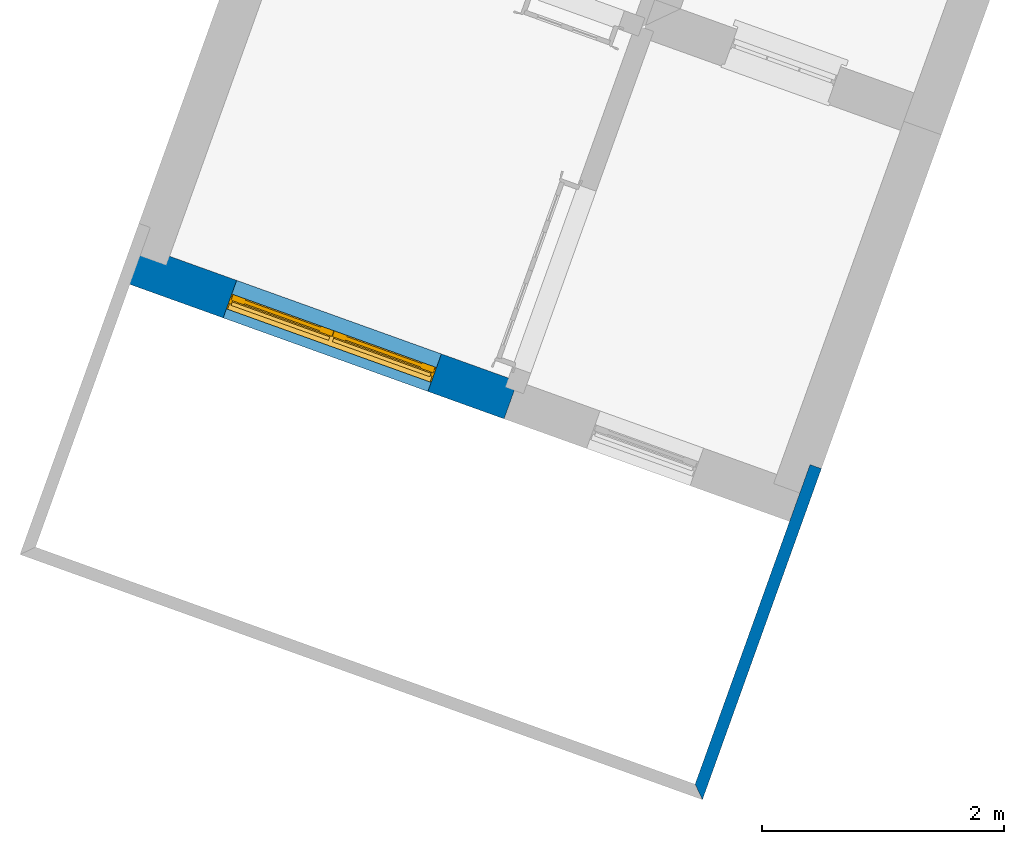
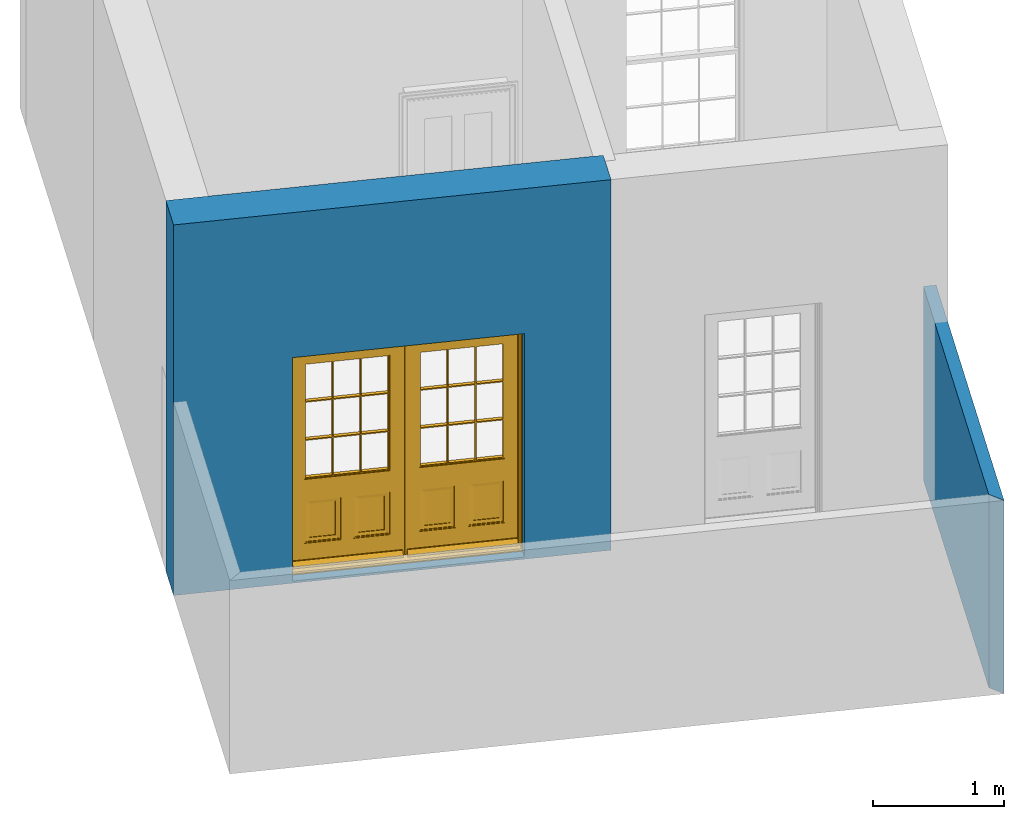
# One storey, part 2 of 8: 2 walls, 1 door, 1 opening.
"""IFC4 building model written with IfcOpenShell, lengths in metres."""

import ifcopenshell
import ifcopenshell.guid

model = None  # the IFC model being written
_history = None  # IfcOwnerHistory: only IFC2X3 demands one
_inside = {}  # id of a spatial element -> (the spatial element, [elements in it])
_under = {}  # id of a project, library or spatial element -> (it, [spatial elements below it])
_declared = {}  # id of a project -> (the project, [libraries it declares])
_typed = {}  # id of a type object -> (the type object, [elements of that type])
_made_of = {}  # id of a material, layer set ... -> (it, [elements and type objects made of it])


def new_model(schema):
    """Start an empty IFC model of exactly this schema.

    Asked for "IFC4X3", IfcOpenShell would pick the latest addendum, in which some entities
    have other attributes; the version numbers below select the first issue.
    IFC2X3 requires an IfcOwnerHistory on every rooted entity: one is made here for all.
    """
    global model, _history
    if schema == "IFC4X3":
        model = ifcopenshell.file(schema_version=(4, 3, 0, 0))
    else:
        model = ifcopenshell.file(schema=schema)
    _inside.clear()
    _under.clear()
    _declared.clear()
    _typed.clear()
    _made_of.clear()
    _history = None
    if model.schema == "IFC2X3":
        org = make("IfcOrganization", Name="unknown")
        user = make(
            "IfcPersonAndOrganization",
            ThePerson=make("IfcPerson", FamilyName="unknown"),
            TheOrganization=org,
        )
        app = make(
            "IfcApplication",
            ApplicationDeveloper=org,
            Version="unknown",
            ApplicationFullName="unknown",
            ApplicationIdentifier="unknown",
        )
        _history = make(
            "IfcOwnerHistory",
            OwningUser=user,
            OwningApplication=app,
            ChangeAction="ADDED",
            CreationDate=0,
        )
    return model


def make(cls, **values):
    """One entity of the class cls with the attributes given. An attribute that is None is left unset."""
    return model.create_entity(
        cls, **{name: value for name, value in values.items() if value is not None}
    )


def rooted(cls, **values):
    """An entity with a GlobalId (a new one), such as an element, a storey or a relation."""
    return make(cls, GlobalId=ifcopenshell.guid.new(), OwnerHistory=_history, **values)


def si_unit(unit_type, name, prefix=None):
    """IfcSIUnit, for example si_unit("LENGTHUNIT", "METRE", prefix="MILLI")."""
    return make("IfcSIUnit", UnitType=unit_type, Prefix=prefix, Name=name)


def assignment(units):
    """IfcUnitAssignment: the units of a project."""
    return None if units is None else make("IfcUnitAssignment", Units=units)


def point(xyz):
    """IfcCartesianPoint."""
    return None if xyz is None else make("IfcCartesianPoint", Coordinates=xyz)


def direction(xyz):
    """IfcDirection."""
    return None if xyz is None else make("IfcDirection", DirectionRatios=xyz)


def frame(location, z_axis=None, x_axis=None):
    """IfcAxis2Placement3D, a coordinate frame: its origin and axes. An axis left out is left unset."""
    return make(
        "IfcAxis2Placement3D",
        Location=point(location),
        Axis=direction(z_axis),
        RefDirection=direction(x_axis),
    )


def origin():
    """The frame at (0, 0, 0) with its axes left unset."""
    return frame((0.0, 0.0, 0.0))


def origin_with_axes():
    """The frame at (0, 0, 0) with the z axis (0, 0, 1) and the x axis (1, 0, 0) written out."""
    return frame((0.0, 0.0, 0.0), z_axis=(0.0, 0.0, 1.0), x_axis=(1.0, 0.0, 0.0))


def place(relative_to, where):
    """IfcLocalPlacement: puts the frame where relative to a parent placement (None: the world)."""
    return make(
        "IfcLocalPlacement", PlacementRelTo=relative_to, RelativePlacement=where
    )


def context(
    kind, dimensions, precision=None, world=None, true_north=None, identifier=None
):
    """IfcGeometricRepresentationContext, for example the 3D "Model" context."""
    return make(
        "IfcGeometricRepresentationContext",
        ContextIdentifier=identifier,
        ContextType=kind,
        CoordinateSpaceDimension=dimensions,
        Precision=precision,
        WorldCoordinateSystem=world,
        TrueNorth=true_north,
    )


def subcontext(parent, identifier, kind, view, scale=None):
    """IfcGeometricRepresentationSubContext, for example "Body" below "Model"."""
    return make(
        "IfcGeometricRepresentationSubContext",
        ContextIdentifier=identifier,
        ContextType=kind,
        ParentContext=parent,
        TargetScale=scale,
        TargetView=view,
    )


def project(units=None, contexts=None):
    """IfcProject with its units and contexts."""
    return rooted(
        "IfcProject",
        Name="project",
        RepresentationContexts=contexts,
        UnitsInContext=assignment(units),
    )


def spatial(cls, under=None, at=None, **own):
    """A site, building, storey or space (cls), placed at a placement, below another one or the project."""
    s = rooted(cls, ObjectPlacement=at, **own)
    if under is not None:
        _under.setdefault(under.id(), (under, []))[1].append(s)
    return s


def polyline(points):
    """IfcPolyline through the points."""
    return make("IfcPolyline", Points=[point(p) for p in points])


def outline(outer, holes=None, kind="AREA"):
    """IfcArbitraryClosedProfileDef: a profile drawn as a closed curve; with holes, ...WithVoids."""
    if holes is None:
        return make("IfcArbitraryClosedProfileDef", ProfileType=kind, OuterCurve=outer)
    return make(
        "IfcArbitraryProfileDefWithVoids",
        ProfileType=kind,
        OuterCurve=outer,
        InnerCurves=holes,
    )


def extrude(swept, where, along, depth):
    """IfcExtrudedAreaSolid: the profile swept, set in the frame where, extruded along a direction by depth."""
    return make(
        "IfcExtrudedAreaSolid",
        SweptArea=swept,
        Position=where,
        ExtrudedDirection=direction(along),
        Depth=depth,
    )


def faces_of(points, faces, orient=None, outer=None):
    """IfcFace entities. A face is a list of loops; a loop is a list of indices into points, from 0.

    orient and outer hold one flag for each loop. By default every Orientation is true, the
    first loop of a face is its IfcFaceOuterBound and the others are IfcFaceBound.
    """
    made = []
    for i, loops in enumerate(faces):
        bounds = []
        for j, loop in enumerate(loops):
            is_outer = j == 0 if outer is None else outer[i][j]
            bounds.append(
                make(
                    "IfcFaceOuterBound" if is_outer else "IfcFaceBound",
                    Bound=make("IfcPolyLoop", Polygon=[points[k] for k in loop]),
                    Orientation=True if orient is None else orient[i][j],
                )
            )
        made.append(make("IfcFace", Bounds=bounds))
    return made


def faceted_brep(points, faces, orient=None, outer=None, voids=None):
    """IfcFacetedBrep: a solid bounded by flat faces; with voids (closed shells), ...WithVoids."""
    shared = [point(p) for p in points]
    hull = make("IfcClosedShell", CfsFaces=faces_of(shared, faces, orient, outer))
    if voids is None:
        return make("IfcFacetedBrep", Outer=hull)
    return make(
        "IfcFacetedBrepWithVoids",
        Outer=hull,
        Voids=[
            make(cls, CfsFaces=faces_of(shared, fs, o, b)) for cls, fs, o, b in voids
        ],
    )


def shape(context_of_items, identifier, shape_type, items):
    """IfcShapeRepresentation: the items that make up one representation, for example the "Body"."""
    return make(
        "IfcShapeRepresentation",
        ContextOfItems=context_of_items,
        RepresentationIdentifier=identifier,
        RepresentationType=shape_type,
        Items=items,
    )


def source(mapping_origin, context_of_items, identifier, shape_type, items):
    """IfcRepresentationMap: a shape defined once, which mapped items show again and again."""
    return make(
        "IfcRepresentationMap",
        MappingOrigin=mapping_origin,
        MappedRepresentation=shape(context_of_items, identifier, shape_type, items),
    )


def transform(
    local_origin,
    x_axis=None,
    y_axis=None,
    z_axis=None,
    scale=None,
    scale2=None,
    scale3=None,
    uniform=True,
):
    """IfcCartesianTransformationOperator3D, or its non-uniform kind. x_axis, y_axis, z_axis: its Axis1, 2, 3."""
    if uniform:
        return make(
            "IfcCartesianTransformationOperator3D",
            Axis1=direction(x_axis),
            Axis2=direction(y_axis),
            LocalOrigin=point(local_origin),
            Scale=scale,
            Axis3=direction(z_axis),
        )
    return make(
        "IfcCartesianTransformationOperator3DnonUniform",
        Axis1=direction(x_axis),
        Axis2=direction(y_axis),
        LocalOrigin=point(local_origin),
        Scale=scale,
        Axis3=direction(z_axis),
        Scale2=scale2,
        Scale3=scale3,
    )


def mapped(mapping_source, mapping_target):
    """IfcMappedItem: shows the shape of a source again, moved by a transform."""
    return make(
        "IfcMappedItem", MappingSource=mapping_source, MappingTarget=mapping_target
    )


def material(Name=None, Category=None):
    """IfcMaterial."""
    return make("IfcMaterial", Name=Name, Category=Category)


def layer(
    of_material, thickness, ventilated=None, Name=None, Category=None, Priority=None
):
    """IfcMaterialLayer: one layer of a wall or slab, of a material (None: an air gap)."""
    return make(
        "IfcMaterialLayer",
        Material=of_material,
        LayerThickness=thickness,
        IsVentilated=ventilated,
        Name=Name,
        Category=Category,
        Priority=Priority,
    )


def layer_set(layers, Name=None):
    """IfcMaterialLayerSet."""
    return make("IfcMaterialLayerSet", MaterialLayers=layers, LayerSetName=Name)


def layer_usage(for_layer_set, set_direction, sense, offset, extent=None):
    """IfcMaterialLayerSetUsage: how a layer set lies in its element."""
    return make(
        "IfcMaterialLayerSetUsage",
        ForLayerSet=for_layer_set,
        LayerSetDirection=set_direction,
        DirectionSense=sense,
        OffsetFromReferenceLine=offset,
        ReferenceExtent=extent,
    )


def made_of(thing, what):
    """Note that an element or type object is made of a material, layer set ...; save() writes the relation."""
    if what is not None:
        _made_of.setdefault(what.id(), (what, []))[1].append(thing)
    return thing


def type_object(cls, material=None, **own):
    """A type object (cls), such as IfcWallType, which elements share."""
    return made_of(rooted(cls, **own), material)


def type_shapes(of_type, sources):
    """Give a type object the sources (RepresentationMaps) that its elements show as mapped items."""
    of_type.RepresentationMaps = sources


def element(
    cls,
    number,
    at=None,
    inside=None,
    cuts=None,
    type_object=None,
    material=None,
    context=None,
    identifier="Body",
    shape_type=None,
    held_by="IfcProductDefinitionShape",
    body=None,
    shapes=None,
    **own,
):
    """One element of the class cls, such as IfcWall. Its Tag is "e" and its number.

    at: its placement. inside: the storey or other place that contains it. cuts: it is an
    opening in that element (IfcRelVoidsElement). A single representation is given by context,
    identifier, shape_type and body (its items); several are given by shapes. held_by: the class
    of the entity that holds the representations. save() writes the other relations.
    """
    e = rooted(cls, Tag="e%d" % number, ObjectPlacement=at, **own)
    if body is not None:
        shapes = [shape(context, identifier, shape_type, body)]
    if shapes is not None:
        e.Representation = make(held_by, Representations=shapes)
    if inside is not None:
        _inside.setdefault(inside.id(), (inside, []))[1].append(e)
    if cuts is not None:
        rooted(
            "IfcRelVoidsElement", RelatingBuildingElement=cuts, RelatedOpeningElement=e
        )
    if type_object is not None:
        _typed.setdefault(type_object.id(), (type_object, []))[1].append(e)
    return made_of(e, material)


def fill(opening, filler):
    """IfcRelFillsElement: the door or window that sits in an opening."""
    return rooted(
        "IfcRelFillsElement",
        RelatingOpeningElement=opening,
        RelatedBuildingElement=filler,
    )


def aggregate(whole, parts):
    """IfcRelAggregates: a whole, such as a stair, and the parts it consists of."""
    return rooted("IfcRelAggregates", RelatingObject=whole, RelatedObjects=parts)


def save(model, path):
    """Write the relations noted so far, then the file.

    IfcRelAggregates (storeys below a building ...), IfcRelContainedInSpatialStructure (elements
    in a storey), IfcRelDefinesByType, IfcRelAssociatesMaterial and IfcRelDeclares: one each for
    every whole, place, type object, material and project.
    """
    for whole, parts in _under.values():
        aggregate(whole, parts)
    for where, things in _inside.values():
        rooted(
            "IfcRelContainedInSpatialStructure",
            RelatedElements=things,
            RelatingStructure=where,
        )
    for kind, things in _typed.values():
        rooted("IfcRelDefinesByType", RelatedObjects=things, RelatingType=kind)
    for what, things in _made_of.values():
        rooted("IfcRelAssociatesMaterial", RelatedObjects=things, RelatingMaterial=what)
    for by, libraries in _declared.values():
        rooted("IfcRelDeclares", RelatingContext=by, RelatedDefinitions=libraries)
    model.write(path)


model = new_model("IFC4")

# Units and contexts
model_context = context("Model", 3, world=origin_with_axes())
body_context = subcontext(model_context, "Body", "Model", "MODEL_VIEW")
ifc_project = project(units=[si_unit("PLANEANGLEUNIT", "RADIAN"), si_unit("MASSUNIT", "GRAM", prefix="KILO"), si_unit("FORCEUNIT", "NEWTON", prefix="KILO"), si_unit("LENGTHUNIT", "METRE"), si_unit("AREAUNIT", "SQUARE_METRE"), si_unit("VOLUMEUNIT", "CUBIC_METRE")], contexts=[model_context, model_context])

# Sites, building, storey
site_1_placement = place(None, origin_with_axes())
site_1 = spatial("IfcSite", under=ifc_project, at=site_1_placement, Name="Tamar")
site_2_placement = place(site_1_placement, origin_with_axes())
site_2 = spatial("IfcSite", under=site_1, at=site_2_placement, Name="Site plot-25", CompositionType="ELEMENT")
building_placement = place(None, origin_with_axes())
building = spatial("IfcBuilding", under=site_2, at=building_placement, Name="Building plot-25", CompositionType="ELEMENT")
storey_placement = place(None, frame((0.0, 0.0, 26.0), z_axis=(0.0, 0.0, 1.0), x_axis=(1.0, 0.0, 0.0)))
storey = spatial("IfcBuildingStorey", under=building, at=storey_placement, Name="plot-25 0", CompositionType="ELEMENT", Elevation=26.0)

# Wall, opening, door
ifc_material_1 = material(Name="Masonry")
ifc_layer_1 = layer(ifc_material_1, 0.33, ventilated=False)
ifc_layer_set_1 = layer_set([ifc_layer_1], Name="exterior_0.08_0.25")
ifc_layer_usage_1 = layer_usage(ifc_layer_set_1, "AXIS2", "POSITIVE", -0.25)
wall_type_1 = type_object("IfcWallType", Name="exterior_0.08_0.25", PredefinedType="SOLIDWALL", material=ifc_layer_set_1)
wall_1_placement = place(storey_placement, frame((274.256984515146, 272.065696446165, 0.0), z_axis=(0.0, 0.0, 1.0), x_axis=(0.941087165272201, -0.338164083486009, 0.0)))
wall_1 = element("IfcWall", 1, at=wall_1_placement, inside=storey, type_object=wall_type_1, material=ifc_layer_usage_1, Name="exterior", context=body_context, shape_type="SweptSolid", body=[
    extrude(outline(polyline([(-0.249999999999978, 0.0799999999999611), (-0.249999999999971, -0.25), (3.14022229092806, -0.249999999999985), (3.14022229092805, 0.0799999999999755), (-0.249999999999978, 0.0799999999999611)])), origin_with_axes(), (0.0, 0.0, 1.0), 3.45),
])
opening_placement = place(wall_1_placement, frame((0.67011114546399, 0.0, 0.0199999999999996)))
opening = element("IfcOpeningElement", 2, at=opening_placement, cuts=wall_1, Name="My Opening", ObjectType="Opening", context=body_context, shape_type="SweptSolid", body=[
    extrude(outline(polyline([(0.0, -0.270000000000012), (1.80000000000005, -0.270000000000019), (1.80000000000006, 1.10000000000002), (7.66053886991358e-15, 1.10000000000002), (0.0, -0.270000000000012)])), origin_with_axes(), (0.0, 0.0, 1.0), 2.08),
])
door_type = type_object("IfcDoorType", Name="door_panelled_double", OperationType="SINGLE_SWING_LEFT", PredefinedType="NOTDEFINED")
shared_shape = source(origin(), body_context, "Body", "Brep", [
    faceted_brep([(0.545, 0.195, 0.265), (0.745, 0.195, 0.265), (0.745, 0.2, 0.265), (0.545, 0.2, 0.265), (0.745, 0.2, 0.58), (0.545, 0.2, 0.58), (0.545, 0.195, 0.58), (0.515, 0.19, 0.235), (0.775, 0.19, 0.235), (0.745, 0.195, 0.58), (0.515, 0.19, 0.61), (0.515, 0.185, 0.235), (0.775, 0.185, 0.235), (0.775, 0.19, 0.61), (0.515, 0.185, 0.61), (0.785, 0.185, 0.225), (0.505, 0.185, 0.225), (0.775, 0.185, 0.61), (0.505, 0.185, 0.62), (0.785, 0.185, 0.62), (0.505, 0.18, 0.225), (0.785, 0.18, 0.225), (0.505, 0.18, 0.62), (0.785, 0.18, 0.62), (0.883, 0.18, 0.075), (0.898, 0.18, 0.075), (0.405, 0.18, 0.62), (0.405, 0.18, 0.225), (0.027, 0.18, 0.075), (0.785, 0.18, 0.82), (0.125, 0.18, 0.82), (0.405, 0.185, 0.62), (0.405, 0.185, 0.225), (0.898, 0.18, 2.068), (0.027, 0.17, 0.075), (0.883, 0.17, 0.075), (0.125, 0.18, 0.225), (0.012, 0.18, 0.075), (0.785, 0.19, 0.82), (0.125, 0.19, 0.82), (0.125, 0.18, 0.62), (0.125, 0.185, 0.62), (0.395, 0.185, 0.61), (0.395, 0.185, 0.235), (0.125, 0.185, 0.225), (0.785, 0.18, 1.895), (0.027, 0.14, 0.045), (0.883, 0.14, 0.045), (0.558333, 0.19, 0.83), (0.351667, 0.19, 0.83), (0.125, 0.18, 1.895), (0.125, 0.19, 1.895), (0.785, 0.19, 1.895), (0.012, 0.18, 2.068), (0.135, 0.185, 0.61), (0.395, 0.19, 0.61), (0.395, 0.19, 0.235), (0.135, 0.185, 0.235), (0.027, 0.14, 0.027), (0.883, 0.14, 0.027), (0.568333, 0.19, 0.83), (0.558333, 0.22, 0.83), (0.351667, 0.22, 0.83), (0.341667, 0.19, 0.83), (0.135, 0.19, 1.185), (0.135, 0.19, 1.53), (0.775, 0.19, 1.53), (0.775, 0.19, 1.185), (0.135, 0.19, 0.61), (0.365, 0.195, 0.58), (0.365, 0.195, 0.265), (0.135, 0.19, 0.235), (0.568333, 0.19, 1.175), (0.558333, 0.19, 1.175), (0.775, 0.19, 0.83), (0.558333, 0.22, 1.175), (0.785, 0.22, 0.82), (0.125, 0.22, 0.82), (0.351667, 0.22, 1.175), (0.351667, 0.19, 1.175), (0.341667, 0.19, 1.175), (0.135, 0.19, 0.83), (0.135, 0.19, 1.175), (0.135, 0.22, 1.185), (0.135, 0.22, 1.53), (0.135, 0.19, 1.54), (0.351667, 0.19, 1.885), (0.558333, 0.19, 1.885), (0.775, 0.22, 1.53), (0.775, 0.22, 1.185), (0.775, 0.19, 1.175), (0.775, 0.19, 1.54), (0.165, 0.195, 0.58), (0.365, 0.2, 0.58), (0.365, 0.2, 0.265), (0.165, 0.195, 0.265), (0.568333, 0.22, 0.83), (0.568333, 0.22, 1.175), (0.568333, 0.19, 1.185), (0.558333, 0.19, 1.185), (0.775, 0.22, 0.83), (0.785, 0.23, 0.82), (0.125, 0.23, 0.82), (0.341667, 0.22, 0.83), (0.341667, 0.22, 1.175), (0.351667, 0.19, 1.185), (0.341667, 0.19, 1.185), (0.135, 0.22, 0.83), (0.341667, 0.22, 1.185), (0.125, 0.22, 1.895), (0.341667, 0.22, 1.53), (0.341667, 0.19, 1.53), (0.135, 0.19, 1.885), (0.341667, 0.19, 1.54), (0.341667, 0.19, 1.885), (0.558333, 0.22, 1.885), (0.351667, 0.22, 1.885), (0.568333, 0.19, 1.885), (0.785, 0.22, 1.895), (0.568333, 0.22, 1.185), (0.568333, 0.19, 1.53), (0.568333, 0.22, 1.53), (0.568333, 0.19, 1.54), (0.775, 0.19, 1.885), (0.165, 0.2, 0.58), (0.165, 0.2, 0.265), (0.775, 0.22, 1.175), (0.558333, 0.19, 1.53), (0.351667, 0.22, 1.185), (0.558333, 0.22, 1.185), (0.505, 0.23, 0.62), (0.405, 0.23, 0.62), (0.125, 0.23, 1.895), (0.785, 0.23, 1.895), (0.351667, 0.19, 1.53), (0.135, 0.22, 1.175), (0.135, 0.22, 1.54), (0.341667, 0.22, 1.54), (0.135, 0.22, 1.885), (0.351667, 0.19, 1.54), (0.558333, 0.22, 1.54), (0.558333, 0.19, 1.54), (0.351667, 0.22, 1.54), (0.775, 0.22, 1.54), (0.568333, 0.22, 1.54), (0.775, 0.22, 1.885), (0.558333, 0.22, 1.53), (0.405, 0.23, 0.225), (0.505, 0.23, 0.225), (0.125, 0.23, 0.62), (0.785, 0.23, 0.62), (0.012, 0.23, 2.068), (0.898, 0.23, 2.068), (0.351667, 0.22, 1.53), (0.341667, 0.22, 1.885), (0.568333, 0.22, 1.885), (0.405, 0.225, 0.225), (0.405, 0.225, 0.62), (0.505, 0.225, 0.62), (0.505, 0.225, 0.225), (0.898, 0.23, 0.027), (0.012, 0.23, 0.027), (0.125, 0.225, 0.62), (0.785, 0.225, 0.62), (0.395, 0.225, 0.235), (0.395, 0.225, 0.61), (0.125, 0.23, 0.225), (0.125, 0.225, 0.225), (0.515, 0.225, 0.61), (0.515, 0.225, 0.235), (0.785, 0.23, 0.225), (0.785, 0.225, 0.225), (0.135, 0.225, 0.61), (0.775, 0.225, 0.61), (0.135, 0.225, 0.235), (0.395, 0.22, 0.235), (0.395, 0.22, 0.61), (0.515, 0.22, 0.61), (0.515, 0.22, 0.235), (0.775, 0.225, 0.235), (0.135, 0.22, 0.61), (0.775, 0.22, 0.61), (0.135, 0.22, 0.235), (0.365, 0.215, 0.265), (0.365, 0.215, 0.58), (0.545, 0.215, 0.58), (0.545, 0.215, 0.265), (0.775, 0.22, 0.235), (0.165, 0.215, 0.58), (0.745, 0.215, 0.58), (0.165, 0.215, 0.265), (0.365, 0.21, 0.58), (0.365, 0.21, 0.265), (0.545, 0.21, 0.58), (0.545, 0.21, 0.265), (0.745, 0.215, 0.265), (0.165, 0.21, 0.58), (0.745, 0.21, 0.58), (0.165, 0.21, 0.265), (0.745, 0.21, 0.265), (1.775, 0.178, 0.025), (0.025, 0.178, 0.025), (0.025, 0.15, 0.025), (1.775, 0.15, 0.025), (1.79, 0.23, 0.025), (0.01, 0.23, 0.025), (1.79, 0.178, 0.025), (1.8, 0.23, 0.0), (0.0, 0.23, 0.0), (0.01, 0.178, 0.025), (1.79, 0.178, 2.07), (1.79, 0.23, 2.07), (1.775, 0.178, 2.055), (1.8, 0.23, 2.08), (0.01, 0.23, 2.07), (0.0, 0.23, 2.08), (0.01, 0.178, 2.07), (0.025, 0.178, 2.055), (0.0, 0.1, 2.08), (1.8, 0.1, 2.08), (0.01, 0.1, 2.07), (1.79, 0.1, 2.07), (0.01, 0.15, 2.07), (1.79, 0.15, 2.07), (0.0, 0.1, 0.0), (1.8, 0.1, 0.0), (0.01, 0.1, 0.025), (1.79, 0.1, 0.025), (0.01, 0.15, 0.025), (0.025, 0.15, 2.055), (1.79, 0.15, 0.025), (1.775, 0.15, 2.055), (0.898, 0.18, 0.027), (0.012, 0.18, 0.027), (0.883, 0.18, 0.027), (0.027, 0.18, 0.027), (1.435, 0.195, 0.265), (1.635, 0.195, 0.265), (1.635, 0.2, 0.265), (1.435, 0.2, 0.265), (1.635, 0.2, 0.58), (1.435, 0.2, 0.58), (1.435, 0.195, 0.58), (1.405, 0.19, 0.235), (1.665, 0.19, 0.235), (1.635, 0.195, 0.58), (1.405, 0.19, 0.61), (1.405, 0.185, 0.235), (1.665, 0.185, 0.235), (1.665, 0.19, 0.61), (1.405, 0.185, 0.61), (1.675, 0.185, 0.225), (1.395, 0.185, 0.225), (1.665, 0.185, 0.61), (1.395, 0.185, 0.62), (1.675, 0.185, 0.62), (1.395, 0.18, 0.225), (1.675, 0.18, 0.225), (1.395, 0.18, 0.62), (1.675, 0.18, 0.62), (1.773, 0.18, 0.075), (1.788, 0.18, 0.075), (1.295, 0.18, 0.62), (1.295, 0.18, 0.225), (0.917, 0.18, 0.075), (1.675, 0.18, 0.82), (1.015, 0.18, 0.82), (1.295, 0.185, 0.62), (1.295, 0.185, 0.225), (1.788, 0.18, 2.068), (0.917, 0.17, 0.075), (1.773, 0.17, 0.075), (1.015, 0.18, 0.225), (0.902, 0.18, 0.075), (1.675, 0.19, 0.82), (1.015, 0.19, 0.82), (1.015, 0.18, 0.62), (1.015, 0.185, 0.62), (1.285, 0.185, 0.61), (1.285, 0.185, 0.235), (1.015, 0.185, 0.225), (1.675, 0.18, 1.895), (0.917, 0.14, 0.045), (1.773, 0.14, 0.045), (1.448333, 0.19, 0.83), (1.241667, 0.19, 0.83), (1.015, 0.18, 1.895), (1.015, 0.19, 1.895), (1.675, 0.19, 1.895), (0.902, 0.18, 2.068), (1.025, 0.185, 0.61), (1.285, 0.19, 0.61), (1.285, 0.19, 0.235), (1.025, 0.185, 0.235), (0.917, 0.14, 0.027), (1.773, 0.14, 0.027), (1.458333, 0.19, 0.83), (1.448333, 0.22, 0.83), (1.241667, 0.22, 0.83), (1.231667, 0.19, 0.83), (1.025, 0.19, 1.185), (1.025, 0.19, 1.53), (1.665, 0.19, 1.53), (1.665, 0.19, 1.185), (1.025, 0.19, 0.61), (1.255, 0.195, 0.58), (1.255, 0.195, 0.265), (1.025, 0.19, 0.235), (1.458333, 0.19, 1.175), (1.448333, 0.19, 1.175), (1.665, 0.19, 0.83), (1.448333, 0.22, 1.175), (1.675, 0.22, 0.82), (1.015, 0.22, 0.82), (1.241667, 0.22, 1.175), (1.241667, 0.19, 1.175), (1.231667, 0.19, 1.175), (1.025, 0.19, 0.83), (1.025, 0.19, 1.175), (1.025, 0.22, 1.185), (1.025, 0.22, 1.53), (1.025, 0.19, 1.54), (1.241667, 0.19, 1.885), (1.448333, 0.19, 1.885), (1.665, 0.22, 1.53), (1.665, 0.22, 1.185), (1.665, 0.19, 1.175), (1.665, 0.19, 1.54), (1.055, 0.195, 0.58), (1.255, 0.2, 0.58), (1.255, 0.2, 0.265), (1.055, 0.195, 0.265), (1.458333, 0.22, 0.83), (1.458333, 0.22, 1.175), (1.458333, 0.19, 1.185), (1.448333, 0.19, 1.185), (1.665, 0.22, 0.83), (1.675, 0.23, 0.82), (1.015, 0.23, 0.82), (1.231667, 0.22, 0.83), (1.231667, 0.22, 1.175), (1.241667, 0.19, 1.185), (1.231667, 0.19, 1.185), (1.025, 0.22, 0.83), (1.231667, 0.22, 1.185), (1.015, 0.22, 1.895), (1.231667, 0.22, 1.53), (1.231667, 0.19, 1.53), (1.025, 0.19, 1.885), (1.231667, 0.19, 1.54), (1.231667, 0.19, 1.885), (1.448333, 0.22, 1.885), (1.241667, 0.22, 1.885), (1.458333, 0.19, 1.885), (1.675, 0.22, 1.895), (1.458333, 0.22, 1.185), (1.458333, 0.19, 1.53), (1.458333, 0.22, 1.53), (1.458333, 0.19, 1.54), (1.665, 0.19, 1.885), (1.055, 0.2, 0.58), (1.055, 0.2, 0.265), (1.665, 0.22, 1.175), (1.448333, 0.19, 1.53), (1.241667, 0.22, 1.185), (1.448333, 0.22, 1.185), (1.395, 0.23, 0.62), (1.295, 0.23, 0.62), (1.015, 0.23, 1.895), (1.675, 0.23, 1.895), (1.241667, 0.19, 1.53), (1.025, 0.22, 1.175), (1.025, 0.22, 1.54), (1.231667, 0.22, 1.54), (1.025, 0.22, 1.885), (1.241667, 0.19, 1.54), (1.448333, 0.22, 1.54), (1.448333, 0.19, 1.54), (1.241667, 0.22, 1.54), (1.665, 0.22, 1.54), (1.458333, 0.22, 1.54), (1.665, 0.22, 1.885), (1.448333, 0.22, 1.53), (1.295, 0.23, 0.225), (1.395, 0.23, 0.225), (1.015, 0.23, 0.62), (1.675, 0.23, 0.62), (0.902, 0.23, 2.068), (1.788, 0.23, 2.068), (1.241667, 0.22, 1.53), (1.231667, 0.22, 1.885), (1.458333, 0.22, 1.885), (1.295, 0.225, 0.225), (1.295, 0.225, 0.62), (1.395, 0.225, 0.62), (1.395, 0.225, 0.225), (1.788, 0.23, 0.027), (0.902, 0.23, 0.027), (1.015, 0.225, 0.62), (1.675, 0.225, 0.62), (1.285, 0.225, 0.235), (1.285, 0.225, 0.61), (1.015, 0.23, 0.225), (1.015, 0.225, 0.225), (1.405, 0.225, 0.61), (1.405, 0.225, 0.235), (1.675, 0.23, 0.225), (1.675, 0.225, 0.225), (1.025, 0.225, 0.61), (1.665, 0.225, 0.61), (1.025, 0.225, 0.235), (1.285, 0.22, 0.235), (1.285, 0.22, 0.61), (1.405, 0.22, 0.61), (1.405, 0.22, 0.235), (1.665, 0.225, 0.235), (1.025, 0.22, 0.61), (1.665, 0.22, 0.61), (1.025, 0.22, 0.235), (1.255, 0.215, 0.265), (1.255, 0.215, 0.58), (1.435, 0.215, 0.58), (1.435, 0.215, 0.265), (1.665, 0.22, 0.235), (1.055, 0.215, 0.58), (1.635, 0.215, 0.58), (1.055, 0.215, 0.265), (1.255, 0.21, 0.58), (1.255, 0.21, 0.265), (1.435, 0.21, 0.58), (1.435, 0.21, 0.265), (1.635, 0.215, 0.265), (1.055, 0.21, 0.58), (1.635, 0.21, 0.58), (1.055, 0.21, 0.265), (1.635, 0.21, 0.265), (1.788, 0.18, 0.027), (0.902, 0.18, 0.027), (1.773, 0.18, 0.027), (0.917, 0.18, 0.027)], [[[0, 1, 2, 3]], [[2, 4, 5, 3]], [[0, 3, 5, 6]], [[1, 0, 7, 8]], [[9, 4, 2, 1]], [[9, 6, 5, 4]], [[0, 6, 10, 7]], [[8, 7, 11, 12]], [[8, 13, 9, 1]], [[13, 10, 6, 9]], [[7, 10, 14, 11]], [[15, 12, 11, 16]], [[12, 17, 13, 8]], [[17, 14, 10, 13]], [[18, 16, 11, 14]], [[15, 19, 17, 12]], [[15, 16, 20, 21]], [[14, 17, 19, 18]], [[16, 18, 22, 20]], [[21, 23, 19, 15]], [[24, 25, 21, 20]], [[23, 22, 18, 19]], [[20, 22, 26, 27]], [[23, 21, 25]], [[28, 24, 20, 27]], [[22, 23, 29]], [[29, 30, 26, 22]], [[27, 26, 31, 32]], [[23, 25, 33, 29]], [[34, 35, 24, 28]], [[28, 27, 36, 37]], [[38, 39, 30, 29]], [[26, 30, 40]], [[26, 40, 41, 31]], [[42, 43, 32, 31]], [[32, 44, 36, 27]], [[33, 45, 29]], [[46, 47, 35, 34]], [[36, 40, 37]], [[39, 38, 48, 49]], [[50, 30, 39, 51]], [[29, 45, 52, 38]], [[53, 37, 40, 30]], [[44, 41, 40, 36]], [[31, 41, 54, 42]], [[43, 42, 55, 56]], [[57, 44, 32, 43]], [[50, 45, 33, 53]], [[47, 46, 58, 59]], [[60, 48, 38]], [[49, 48, 61, 62]], [[49, 63, 39]], [[50, 53, 30]], [[51, 39, 64, 65]], [[45, 50, 51, 52]], [[66, 67, 38, 52]], [[57, 54, 41, 44]], [[42, 54, 68, 55]], [[56, 55, 69, 70]], [[56, 71, 57, 43]], [[60, 72, 73, 48]], [[60, 38, 74]], [[48, 73, 75, 61]], [[76, 77, 62, 61]], [[62, 78, 79, 49]], [[49, 79, 80, 63]], [[63, 81, 39]], [[82, 64, 39]], [[65, 64, 83, 84]], [[85, 51, 65]], [[52, 51, 86, 87]], [[88, 89, 67, 66]], [[90, 38, 67]], [[91, 66, 52]], [[71, 68, 54, 57]], [[55, 68, 92, 69]], [[69, 93, 94, 70]], [[70, 95, 71, 56]], [[96, 97, 72, 60]], [[73, 72, 98, 99]], [[74, 38, 90]], [[100, 96, 60, 74]], [[75, 73, 79, 78]], [[61, 75, 97, 96]], [[101, 102, 77, 76]], [[77, 103, 62]], [[96, 76, 61]], [[103, 104, 78, 62]], [[80, 79, 105, 106]], [[63, 80, 104, 103]], [[81, 63, 103, 107]], [[81, 82, 39]], [[106, 64, 82, 80]], [[106, 108, 83, 64]], [[84, 83, 77, 109]], [[110, 111, 65, 84]], [[112, 51, 85]], [[113, 85, 65, 111]], [[114, 86, 51]], [[115, 87, 86, 116]], [[117, 52, 87]], [[118, 76, 89, 88]], [[119, 98, 67, 89]], [[120, 121, 88, 66]], [[67, 98, 72, 90]], [[91, 122, 120, 66]], [[91, 52, 123]], [[95, 92, 68, 71]], [[69, 92, 124, 93]], [[94, 93, 124, 125]], [[94, 125, 95, 70]], [[72, 97, 126, 90]], [[127, 99, 98, 120]], [[99, 105, 79, 73]], [[74, 90, 126, 100]], [[96, 100, 76]], [[128, 129, 75, 78]], [[97, 75, 129, 119]], [[130, 131, 102, 101]], [[109, 77, 102, 132]], [[133, 101, 76, 118]], [[77, 107, 103]], [[78, 104, 108, 128]], [[111, 106, 105, 134]], [[104, 80, 82, 135]], [[107, 135, 82, 81]], [[110, 108, 106, 111]], [[104, 135, 83, 108]], [[83, 135, 77]], [[136, 84, 109]], [[110, 84, 136, 137]], [[114, 51, 112]], [[85, 136, 138, 112]], [[113, 137, 136, 85]], [[111, 134, 139, 113]], [[86, 114, 113, 139]], [[140, 141, 87, 115]], [[139, 142, 116, 86]], [[109, 118, 115, 116]], [[117, 123, 52]], [[117, 87, 141, 122]], [[126, 89, 76]], [[143, 118, 88]], [[120, 98, 119, 121]], [[119, 89, 126, 97]], [[144, 143, 88, 121]], [[144, 122, 91, 143]], [[127, 120, 122, 141]], [[143, 91, 123, 145]], [[124, 92, 95, 125]], [[146, 129, 99, 127]], [[99, 129, 128, 105]], [[100, 126, 76]], [[121, 119, 129, 146]], [[147, 131, 130, 148]], [[131, 149, 102]], [[130, 101, 150]], [[102, 151, 132]], [[118, 109, 132, 133]], [[101, 133, 152]], [[107, 77, 135]], [[153, 128, 108, 110]], [[134, 105, 128, 153]], [[109, 138, 136]], [[153, 110, 137, 142]], [[154, 114, 112, 138]], [[137, 113, 114, 154]], [[141, 139, 134, 127]], [[141, 140, 142, 139]], [[144, 140, 115, 155]], [[142, 137, 154, 116]], [[155, 115, 118]], [[116, 154, 109]], [[117, 155, 145, 123]], [[122, 144, 155, 117]], [[143, 145, 118]], [[121, 146, 140, 144]], [[146, 127, 134, 153]], [[156, 157, 131, 147]], [[148, 130, 158, 159]], [[148, 160, 161, 147]], [[157, 162, 149, 131]], [[161, 151, 102, 149]], [[101, 152, 160, 150]], [[163, 158, 130, 150]], [[151, 152, 133, 132]], [[154, 138, 109]], [[142, 140, 146, 153]], [[145, 155, 118]], [[157, 156, 164, 165]], [[147, 166, 167, 156]], [[168, 169, 159, 158]], [[170, 148, 159, 171]], [[148, 170, 160]], [[166, 147, 161]], [[172, 162, 157, 165]], [[166, 149, 162, 167]], [[166, 161, 149]], [[150, 160, 170]], [[163, 173, 168, 158]], [[171, 163, 150, 170]], [[174, 164, 156, 167]], [[175, 176, 165, 164]], [[169, 168, 177, 178]], [[171, 159, 169, 179]], [[167, 162, 172, 174]], [[176, 180, 172, 165]], [[179, 173, 163, 171]], [[181, 177, 168, 173]], [[164, 174, 182, 175]], [[183, 184, 176, 175]], [[178, 177, 185, 186]], [[179, 169, 178, 187]], [[174, 172, 180, 182]], [[184, 188, 180, 176]], [[187, 181, 173, 179]], [[189, 185, 177, 181]], [[175, 182, 190, 183]], [[191, 184, 183, 192]], [[185, 193, 194, 186]], [[187, 178, 186, 195]], [[182, 180, 188, 190]], [[191, 196, 188, 184]], [[195, 189, 181, 187]], [[197, 193, 185, 189]], [[183, 190, 198, 192]], [[198, 196, 191, 192]], [[194, 193, 197, 199]], [[195, 186, 194, 199]], [[188, 196, 198, 190]], [[197, 189, 195, 199]], [[200, 201, 202, 203]], [[201, 200, 204, 205]], [[206, 204, 200]], [[204, 207, 208, 205]], [[209, 201, 205]], [[210, 211, 204, 206]], [[206, 200, 212, 210]], [[211, 213, 207, 204]], [[214, 205, 208, 215]], [[216, 217, 201, 209]], [[205, 214, 216, 209]], [[216, 214, 211, 210]], [[210, 212, 217, 216]], [[214, 215, 213, 211]], [[218, 219, 213, 215]], [[219, 218, 220, 221]], [[221, 220, 222, 223]], [[215, 208, 224, 218]], [[225, 224, 208, 207]], [[224, 226, 220, 218]], [[224, 225, 227, 226]], [[219, 225, 207, 213]], [[228, 222, 220, 226]], [[219, 221, 227, 225]], [[226, 227, 203, 202]], [[202, 229, 222, 228]], [[228, 226, 202]], [[227, 221, 223, 230]], [[230, 203, 227]], [[217, 229, 202, 201]], [[231, 223, 222, 229]], [[230, 223, 231, 203]], [[231, 229, 217, 212]], [[212, 200, 203, 231]], [[33, 152, 151, 53]], [[25, 160, 152, 33]], [[161, 37, 53, 151]], [[232, 160, 25]], [[161, 233, 37]], [[160, 232, 234]], [[24, 234, 232, 25]], [[233, 161, 235]], [[37, 233, 235, 28]], [[161, 160, 234, 235]], [[35, 47, 234, 24]], [[28, 235, 46, 34]], [[58, 235, 234, 59]], [[59, 234, 47]], [[58, 46, 235]], [[236, 237, 238, 239]], [[238, 240, 241, 239]], [[236, 239, 241, 242]], [[237, 236, 243, 244]], [[245, 240, 238, 237]], [[245, 242, 241, 240]], [[236, 242, 246, 243]], [[244, 243, 247, 248]], [[244, 249, 245, 237]], [[249, 246, 242, 245]], [[243, 246, 250, 247]], [[251, 248, 247, 252]], [[248, 253, 249, 244]], [[253, 250, 246, 249]], [[254, 252, 247, 250]], [[251, 255, 253, 248]], [[251, 252, 256, 257]], [[250, 253, 255, 254]], [[252, 254, 258, 256]], [[257, 259, 255, 251]], [[260, 261, 257, 256]], [[259, 258, 254, 255]], [[256, 258, 262, 263]], [[259, 257, 261]], [[264, 260, 256, 263]], [[258, 259, 265]], [[265, 266, 262, 258]], [[263, 262, 267, 268]], [[259, 261, 269, 265]], [[270, 271, 260, 264]], [[264, 263, 272, 273]], [[274, 275, 266, 265]], [[262, 266, 276]], [[262, 276, 277, 267]], [[278, 279, 268, 267]], [[268, 280, 272, 263]], [[269, 281, 265]], [[282, 283, 271, 270]], [[272, 276, 273]], [[275, 274, 284, 285]], [[286, 266, 275, 287]], [[265, 281, 288, 274]], [[289, 273, 276, 266]], [[280, 277, 276, 272]], [[267, 277, 290, 278]], [[279, 278, 291, 292]], [[293, 280, 268, 279]], [[286, 281, 269, 289]], [[283, 282, 294, 295]], [[296, 284, 274]], [[285, 284, 297, 298]], [[285, 299, 275]], [[286, 289, 266]], [[287, 275, 300, 301]], [[281, 286, 287, 288]], [[302, 303, 274, 288]], [[293, 290, 277, 280]], [[278, 290, 304, 291]], [[292, 291, 305, 306]], [[292, 307, 293, 279]], [[296, 308, 309, 284]], [[296, 274, 310]], [[284, 309, 311, 297]], [[312, 313, 298, 297]], [[298, 314, 315, 285]], [[285, 315, 316, 299]], [[299, 317, 275]], [[318, 300, 275]], [[301, 300, 319, 320]], [[321, 287, 301]], [[288, 287, 322, 323]], [[324, 325, 303, 302]], [[326, 274, 303]], [[327, 302, 288]], [[307, 304, 290, 293]], [[291, 304, 328, 305]], [[305, 329, 330, 306]], [[306, 331, 307, 292]], [[332, 333, 308, 296]], [[309, 308, 334, 335]], [[310, 274, 326]], [[336, 332, 296, 310]], [[311, 309, 315, 314]], [[297, 311, 333, 332]], [[337, 338, 313, 312]], [[313, 339, 298]], [[332, 312, 297]], [[339, 340, 314, 298]], [[316, 315, 341, 342]], [[299, 316, 340, 339]], [[317, 299, 339, 343]], [[317, 318, 275]], [[342, 300, 318, 316]], [[342, 344, 319, 300]], [[320, 319, 313, 345]], [[346, 347, 301, 320]], [[348, 287, 321]], [[349, 321, 301, 347]], [[350, 322, 287]], [[351, 323, 322, 352]], [[353, 288, 323]], [[354, 312, 325, 324]], [[355, 334, 303, 325]], [[356, 357, 324, 302]], [[303, 334, 308, 326]], [[327, 358, 356, 302]], [[327, 288, 359]], [[331, 328, 304, 307]], [[305, 328, 360, 329]], [[330, 329, 360, 361]], [[330, 361, 331, 306]], [[308, 333, 362, 326]], [[363, 335, 334, 356]], [[335, 341, 315, 309]], [[310, 326, 362, 336]], [[332, 336, 312]], [[364, 365, 311, 314]], [[333, 311, 365, 355]], [[366, 367, 338, 337]], [[345, 313, 338, 368]], [[369, 337, 312, 354]], [[313, 343, 339]], [[314, 340, 344, 364]], [[347, 342, 341, 370]], [[340, 316, 318, 371]], [[343, 371, 318, 317]], [[346, 344, 342, 347]], [[340, 371, 319, 344]], [[319, 371, 313]], [[372, 320, 345]], [[346, 320, 372, 373]], [[350, 287, 348]], [[321, 372, 374, 348]], [[349, 373, 372, 321]], [[347, 370, 375, 349]], [[322, 350, 349, 375]], [[376, 377, 323, 351]], [[375, 378, 352, 322]], [[345, 354, 351, 352]], [[353, 359, 288]], [[353, 323, 377, 358]], [[362, 325, 312]], [[379, 354, 324]], [[356, 334, 355, 357]], [[355, 325, 362, 333]], [[380, 379, 324, 357]], [[380, 358, 327, 379]], [[363, 356, 358, 377]], [[379, 327, 359, 381]], [[360, 328, 331, 361]], [[382, 365, 335, 363]], [[335, 365, 364, 341]], [[336, 362, 312]], [[357, 355, 365, 382]], [[383, 367, 366, 384]], [[367, 385, 338]], [[366, 337, 386]], [[338, 387, 368]], [[354, 345, 368, 369]], [[337, 369, 388]], [[343, 313, 371]], [[389, 364, 344, 346]], [[370, 341, 364, 389]], [[345, 374, 372]], [[389, 346, 373, 378]], [[390, 350, 348, 374]], [[373, 349, 350, 390]], [[377, 375, 370, 363]], [[377, 376, 378, 375]], [[380, 376, 351, 391]], [[378, 373, 390, 352]], [[391, 351, 354]], [[352, 390, 345]], [[353, 391, 381, 359]], [[358, 380, 391, 353]], [[379, 381, 354]], [[357, 382, 376, 380]], [[382, 363, 370, 389]], [[392, 393, 367, 383]], [[384, 366, 394, 395]], [[384, 396, 397, 383]], [[393, 398, 385, 367]], [[397, 387, 338, 385]], [[337, 388, 396, 386]], [[399, 394, 366, 386]], [[387, 388, 369, 368]], [[390, 374, 345]], [[378, 376, 382, 389]], [[381, 391, 354]], [[393, 392, 400, 401]], [[383, 402, 403, 392]], [[404, 405, 395, 394]], [[406, 384, 395, 407]], [[384, 406, 396]], [[402, 383, 397]], [[408, 398, 393, 401]], [[402, 385, 398, 403]], [[402, 397, 385]], [[386, 396, 406]], [[399, 409, 404, 394]], [[407, 399, 386, 406]], [[410, 400, 392, 403]], [[411, 412, 401, 400]], [[405, 404, 413, 414]], [[407, 395, 405, 415]], [[403, 398, 408, 410]], [[412, 416, 408, 401]], [[415, 409, 399, 407]], [[417, 413, 404, 409]], [[400, 410, 418, 411]], [[419, 420, 412, 411]], [[414, 413, 421, 422]], [[415, 405, 414, 423]], [[410, 408, 416, 418]], [[420, 424, 416, 412]], [[423, 417, 409, 415]], [[425, 421, 413, 417]], [[411, 418, 426, 419]], [[427, 420, 419, 428]], [[421, 429, 430, 422]], [[423, 414, 422, 431]], [[418, 416, 424, 426]], [[427, 432, 424, 420]], [[431, 425, 417, 423]], [[433, 429, 421, 425]], [[419, 426, 434, 428]], [[434, 432, 427, 428]], [[430, 429, 433, 435]], [[431, 422, 430, 435]], [[424, 432, 434, 426]], [[433, 425, 431, 435]], [[269, 388, 387, 289]], [[261, 396, 388, 269]], [[397, 273, 289, 387]], [[436, 396, 261]], [[397, 437, 273]], [[396, 436, 438]], [[260, 438, 436, 261]], [[437, 397, 439]], [[273, 437, 439, 264]], [[397, 396, 438, 439]], [[271, 283, 438, 260]], [[264, 439, 282, 270]], [[294, 439, 438, 295]], [[295, 438, 283]], [[294, 282, 439]]]),
])
type_shapes(door_type, [shared_shape])
door_placement = place(storey_placement, frame((274.796313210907, 271.584995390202, 0.0199999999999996), z_axis=(0.0, 0.0, 1.0), x_axis=(1.69395689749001, -0.608695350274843, 0.0)))
door = element("IfcDoor", 3, at=door_placement, inside=storey, type_object=door_type, Name="living outside door", OverallHeight=2.08, OverallWidth=1.8, context=body_context, shape_type="MappedRepresentation", body=[
    mapped(shared_shape, transform((0.0, 0.0, 0.0), scale=1.0)),
])
fill(opening, door)

# Wall
ifc_material_2 = material(Name="Masonry")
ifc_layer_2 = layer(ifc_material_2, 0.1, ventilated=False)
ifc_layer_set_2 = layer_set([ifc_layer_2], Name="fence_-0.15_0.25")
ifc_layer_usage_2 = layer_usage(ifc_layer_set_2, "AXIS2", "POSITIVE", -0.25)
wall_type_2 = type_object("IfcWallType", Name="fence_-0.15_0.25", PredefinedType="SOLIDWALL", material=ifc_layer_set_2)
wall_2_placement = place(storey_placement, frame((278.617783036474, 267.937202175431, 0.0), z_axis=(0.0, 0.0, 1.0), x_axis=(0.338164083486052, 0.941087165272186, 0.0)))
element("IfcWall", 4, at=wall_2_placement, inside=storey, type_object=wall_type_2, material=ifc_layer_usage_2, Name="fence", context=body_context, shape_type="SweptSolid", body=[
    extrude(outline(polyline([(-0.150000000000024, -0.149999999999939), (-0.250000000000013, -0.25000000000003), (2.6606075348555, -0.250000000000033), (2.66060753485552, -0.150000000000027), (-0.150000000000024, -0.149999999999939)])), origin_with_axes(), (0.0, 0.0, 1.0), 1.8),
])

save(model, "model.ifc")
